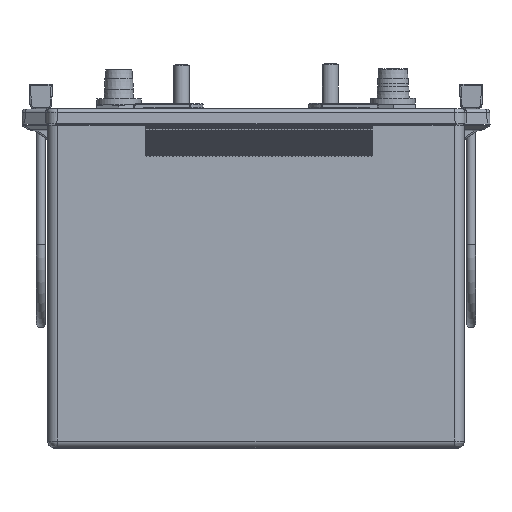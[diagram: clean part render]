
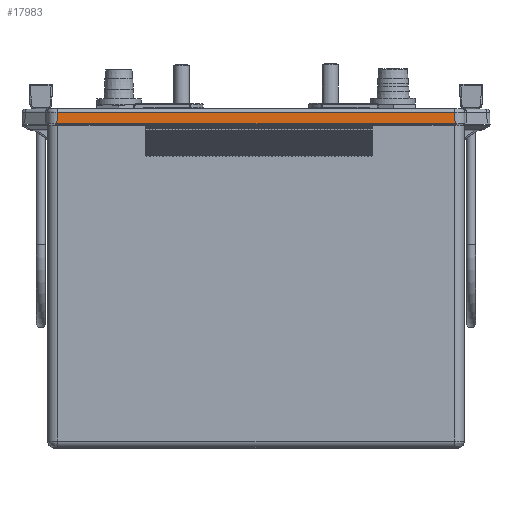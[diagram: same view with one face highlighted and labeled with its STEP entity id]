
A CAD part, top view. The second image highlights one B-rep face of the part: STEP entity #17983.
In plain terms, the highlighted planar face has unit normal (0, 0.018, 1).
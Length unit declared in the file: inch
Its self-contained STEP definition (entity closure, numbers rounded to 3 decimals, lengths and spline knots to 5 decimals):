
#382 = ORIENTED_EDGE ( 'NONE', *, *, #10345, .T. ) ;
#718 = EDGE_CURVE ( 'NONE', #18206, #21720, #20544, .T. ) ;
#1076 = VECTOR ( 'NONE', #32645, 39.37008 ) ;
#5984 = CARTESIAN_POINT ( 'NONE',  ( 4.7442, 7.71242, 5.24613 ) ) ;
#8182 = LINE ( 'NONE', #50094, #12194 ) ;
#8520 = DIRECTION ( 'NONE',  ( 1., 0., 0. ) ) ;
#9620 = CARTESIAN_POINT ( 'NONE',  ( -4.7393, 7.9935, 5.24123 ) ) ;
#9718 = ORIENTED_EDGE ( 'NONE', *, *, #55990, .T. ) ;
#10345 = EDGE_CURVE ( 'NONE', #60145, #20358, #8182, .T. ) ;
#11950 = CARTESIAN_POINT ( 'NONE',  ( 4.7393, 7.9935, 5.24123 ) ) ;
#12194 = VECTOR ( 'NONE', #13033, 39.37008 ) ;
#13033 = DIRECTION ( 'NONE',  ( -0.017, -1., 0.017 ) ) ;
#13316 = ORIENTED_EDGE ( 'NONE', *, *, #718, .T. ) ;
#17983 = ADVANCED_FACE ( 'NONE', ( #59102 ), #53577, .T. ) ;
#18206 = VERTEX_POINT ( 'NONE', #54003 ) ;
#20006 = VECTOR ( 'NONE', #8520, 39.37008 ) ;
#20358 = VERTEX_POINT ( 'NONE', #62387 ) ;
#20544 = LINE ( 'NONE', #5984, #1076 ) ;
#21720 = VERTEX_POINT ( 'NONE', #11950 ) ;
#21850 = VECTOR ( 'NONE', #37564, 39.37008 ) ;
#29987 = CARTESIAN_POINT ( 'NONE',  ( 4.98031, 7.71654, 5.24606 ) ) ;
#30308 = ORIENTED_EDGE ( 'NONE', *, *, #61524, .T. ) ;
#32645 = DIRECTION ( 'NONE',  ( -0.017, 1., -0.017 ) ) ;
#33380 = CARTESIAN_POINT ( 'NONE',  ( 4.98031, 7.9935, 5.24123 ) ) ;
#33542 = EDGE_LOOP ( 'NONE', ( #13316, #9718, #382, #30308 ) ) ;
#35394 = AXIS2_PLACEMENT_3D ( 'NONE', #53911, #63942, #42867 ) ;
#37564 = DIRECTION ( 'NONE',  ( -1., 0., 0. ) ) ;
#42867 = DIRECTION ( 'NONE',  ( 0., -1., 0.017 ) ) ;
#43779 = LINE ( 'NONE', #33380, #21850 ) ;
#50094 = CARTESIAN_POINT ( 'NONE',  ( -4.74117, 7.88617, 5.2431 ) ) ;
#53577 = PLANE ( 'NONE',  #35394 ) ;
#53911 = CARTESIAN_POINT ( 'NONE',  ( 4.98031, 7.71654, 5.24606 ) ) ;
#54003 = CARTESIAN_POINT ( 'NONE',  ( 4.74413, 7.71654, 5.24606 ) ) ;
#54589 = LINE ( 'NONE', #29987, #20006 ) ;
#55990 = EDGE_CURVE ( 'NONE', #21720, #60145, #43779, .T. ) ;
#59102 = FACE_OUTER_BOUND ( 'NONE', #33542, .T. ) ;
#60145 = VERTEX_POINT ( 'NONE', #9620 ) ;
#61524 = EDGE_CURVE ( 'NONE', #20358, #18206, #54589, .T. ) ;
#62387 = CARTESIAN_POINT ( 'NONE',  ( -4.74413, 7.71654, 5.24606 ) ) ;
#63942 = DIRECTION ( 'NONE',  ( 0., 0.017, 1. ) ) ;
